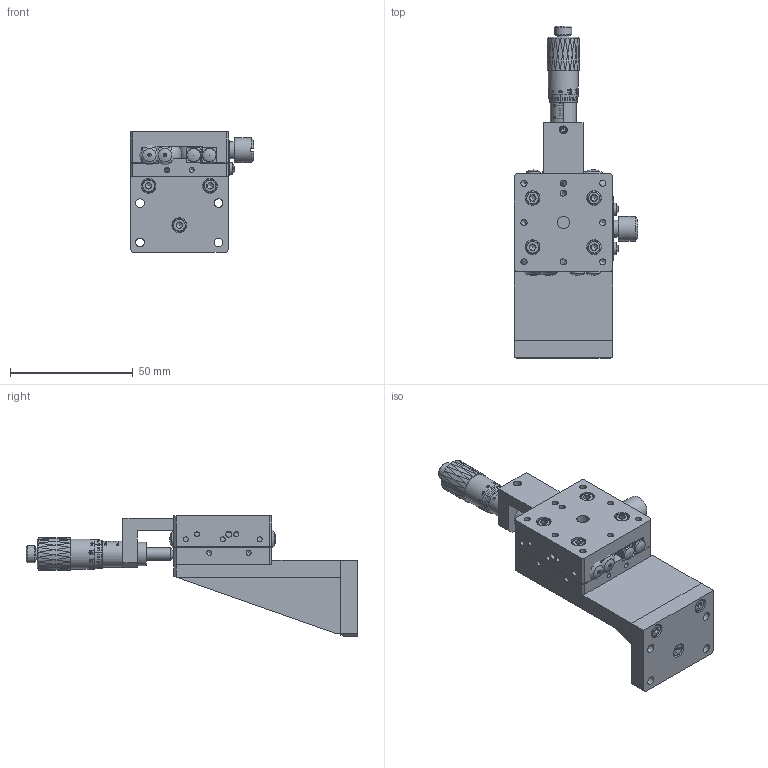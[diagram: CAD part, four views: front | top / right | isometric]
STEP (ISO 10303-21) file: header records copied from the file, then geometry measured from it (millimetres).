
FILE_DESCRIPTION (( 'STEP AP203' ), '1' );
FILE_NAME ('BVZ40.STEP', '2024-07-23T11:57:31', ( 'Windows User' ), ( 'P R C' ), 'SwSTEP 2.0', 'SolidWorks 2024', '' );
FILE_SCHEMA (( 'CONFIG_CONTROL_DESIGN' ));
Length unit declared in the file: millimetre
Products named in the file (1): BVZ40
Bounding box: 50.3 x 135 x 49 mm (x, y, z)
Volume: 62444.4 mm3; surface area: 43353.3 mm2
Topology: 35 solids, 35 shells, 1568 faces, 3861 edges, 2491 vertices
Faces by surface type: plane 675, bspline 395, cylinder 285, cone 185, torus 25, sphere 3
Full cylindrical faces by diameter (mm): 2 x10, 2.05 x15, 2.5 x24, 2.55 x8, 2.9 x2, 2.95 x9, 3 x16, 3.1 x2, 3.2 x1, 3.4 x15, 3.5 x4, 4.4 x8, 4.5 x4, 5 x6, 5.5 x15, 6 x15, 7 x2, 8.5 x1, 9.5 x2, 10 x1, 10.5 x1, 12.2 x1
Entity records: 75664 total; most frequent: CARTESIAN_POINT 43967, ORIENTED_EDGE 6948, DIRECTION 4976, EDGE_CURVE 3474, VERTEX_POINT 2380, EDGE_LOOP 2100, AXIS2_PLACEMENT_3D 1854, FACE_OUTER_BOUND 1732
